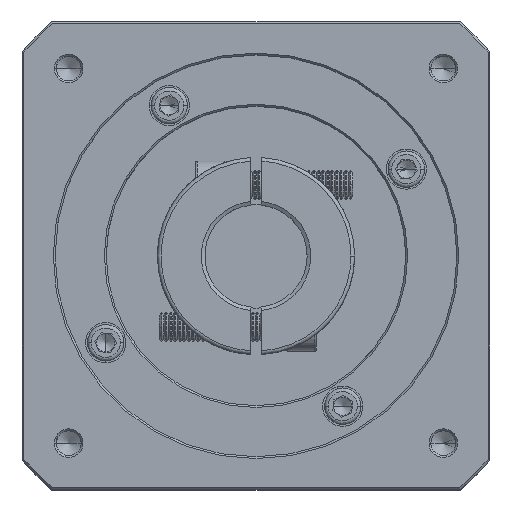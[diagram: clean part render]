
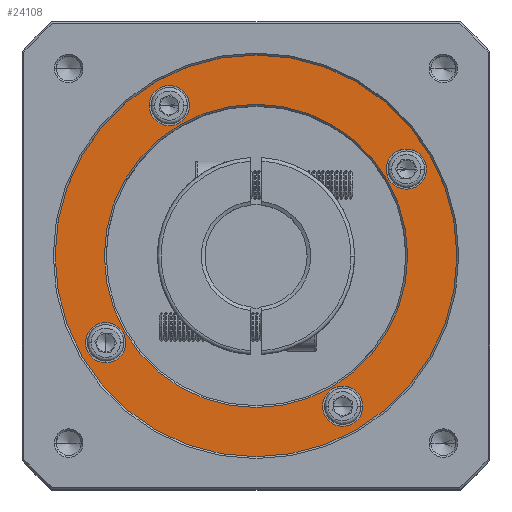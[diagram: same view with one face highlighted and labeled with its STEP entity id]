
A CAD part, top view. The second image highlights one B-rep face of the part: STEP entity #24108.
In plain terms, the highlighted planar face has unit normal (0, 0, 1).
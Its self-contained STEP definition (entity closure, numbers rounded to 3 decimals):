
#1014 = DIRECTION ( 'NONE',  ( 0., 0., -1. ) ) ;
#1461 = CIRCLE ( 'NONE', #45558, 55. ) ;
#2235 = ORIENTED_EDGE ( 'NONE', *, *, #91893, .T. ) ;
#2325 = CARTESIAN_POINT ( 'NONE',  ( 120.843, 116.637, -4.938 ) ) ;
#3922 = CARTESIAN_POINT ( 'NONE',  ( 84.093, 75.501, -4.938 ) ) ;
#4010 = FACE_BOUND ( 'NONE', #20566, .T. ) ;
#4549 = EDGE_CURVE ( 'NONE', #75756, #70799, #112379, .T. ) ;
#8068 = EDGE_CURVE ( 'NONE', #102644, #77143, #1461, .T. ) ;
#8077 = PLANE ( 'NONE',  #86240 ) ;
#8118 = CARTESIAN_POINT ( 'NONE',  ( 65.843, 116.637, -4.938 ) ) ;
#8927 = ORIENTED_EDGE ( 'NONE', *, *, #28743, .T. ) ;
#9043 = CIRCLE ( 'NONE', #24039, 55. ) ;
#9768 = EDGE_CURVE ( 'NONE', #70799, #75756, #59241, .T. ) ;
#9938 = DIRECTION ( 'NONE',  ( 1., 0., 0. ) ) ;
#10207 = CARTESIAN_POINT ( 'NONE',  ( 89.593, 75.501, -4.938 ) ) ;
#13308 = ORIENTED_EDGE ( 'NONE', *, *, #9768, .T. ) ;
#13631 = ORIENTED_EDGE ( 'NONE', *, *, #111243, .T. ) ;
#15833 = DIRECTION ( 'NONE',  ( 1., 0., 0. ) ) ;
#19259 = FACE_BOUND ( 'NONE', #46034, .T. ) ;
#20307 = EDGE_LOOP ( 'NONE', ( #13631, #100403 ) ) ;
#20566 = EDGE_LOOP ( 'NONE', ( #8927, #113206 ) ) ;
#22282 = DIRECTION ( 'NONE',  ( 1., 0., 0. ) ) ;
#22286 = EDGE_CURVE ( 'NONE', #99811, #34420, #45906, .T. ) ;
#23333 = CARTESIAN_POINT ( 'NONE',  ( 89.593, 75.501, -4.938 ) ) ;
#23355 = EDGE_CURVE ( 'NONE', #34420, #99811, #100887, .T. ) ;
#23631 = DIRECTION ( 'NONE',  ( 1., 0., 0. ) ) ;
#23877 = CARTESIAN_POINT ( 'NONE',  ( 24.707, 92.887, -4.938 ) ) ;
#23990 = DIRECTION ( 'NONE',  ( 0., 0., 1. ) ) ;
#24039 = AXIS2_PLACEMENT_3D ( 'NONE', #8118, #61988, #26323 ) ;
#24108 = ADVANCED_FACE ( 'NONE', ( #77547, #109381, #4010, #110736, #80294, #19259 ), #8077, .T. ) ;
#25144 = VERTEX_POINT ( 'NONE', #3922 ) ;
#25313 = CARTESIAN_POINT ( 'NONE',  ( 101.479, 140.387, -4.938 ) ) ;
#25912 = CARTESIAN_POINT ( 'NONE',  ( 65.843, 116.637, -4.938 ) ) ;
#26323 = DIRECTION ( 'NONE',  ( 1., 0., 0. ) ) ;
#26562 = CARTESIAN_POINT ( 'NONE',  ( 10.843, 116.637, -4.938 ) ) ;
#28743 = EDGE_CURVE ( 'NONE', #43766, #44200, #33373, .T. ) ;
#29462 = AXIS2_PLACEMENT_3D ( 'NONE', #23877, #32374, #85865 ) ;
#29899 = CARTESIAN_POINT ( 'NONE',  ( 30.207, 92.887, -4.938 ) ) ;
#31739 = CARTESIAN_POINT ( 'NONE',  ( 42.093, 157.773, -4.938 ) ) ;
#32374 = DIRECTION ( 'NONE',  ( 0., 0., -1. ) ) ;
#32778 = DIRECTION ( 'NONE',  ( 1., 0., 0. ) ) ;
#33373 = CIRCLE ( 'NONE', #58563, 5.5 ) ;
#34420 = VERTEX_POINT ( 'NONE', #59673 ) ;
#36386 = CARTESIAN_POINT ( 'NONE',  ( 36.593, 157.773, -4.938 ) ) ;
#36654 = ORIENTED_EDGE ( 'NONE', *, *, #23355, .T. ) ;
#36671 = CARTESIAN_POINT ( 'NONE',  ( 42.093, 157.773, -4.938 ) ) ;
#37388 = AXIS2_PLACEMENT_3D ( 'NONE', #31739, #68220, #23631 ) ;
#37463 = CARTESIAN_POINT ( 'NONE',  ( 24.707, 92.887, -4.938 ) ) ;
#38449 = AXIS2_PLACEMENT_3D ( 'NONE', #37463, #108316, #55286 ) ;
#40260 = VERTEX_POINT ( 'NONE', #36386 ) ;
#40277 = EDGE_CURVE ( 'NONE', #77143, #102644, #9043, .T. ) ;
#41082 = EDGE_LOOP ( 'NONE', ( #98264, #13308 ) ) ;
#41140 = DIRECTION ( 'NONE',  ( 0., 0., -1. ) ) ;
#43191 = DIRECTION ( 'NONE',  ( 0., 0., -1. ) ) ;
#43461 = CIRCLE ( 'NONE', #37388, 5.5 ) ;
#43766 = VERTEX_POINT ( 'NONE', #108621 ) ;
#44200 = VERTEX_POINT ( 'NONE', #25313 ) ;
#45121 = CIRCLE ( 'NONE', #59298, 5.5 ) ;
#45558 = AXIS2_PLACEMENT_3D ( 'NONE', #61195, #113478, #15833 ) ;
#45906 = CIRCLE ( 'NONE', #29462, 5.5 ) ;
#46034 = EDGE_LOOP ( 'NONE', ( #103782, #36654 ) ) ;
#49912 = CIRCLE ( 'NONE', #51116, 5.5 ) ;
#50672 = DIRECTION ( 'NONE',  ( 0., 0., -1. ) ) ;
#51047 = CARTESIAN_POINT ( 'NONE',  ( 24.343, 116.637, -4.938 ) ) ;
#51116 = AXIS2_PLACEMENT_3D ( 'NONE', #36671, #1014, #9938 ) ;
#52140 = AXIS2_PLACEMENT_3D ( 'NONE', #23333, #41140, #67145 ) ;
#55146 = DIRECTION ( 'NONE',  ( 1., 0., 0. ) ) ;
#55286 = DIRECTION ( 'NONE',  ( 1., 0., 0. ) ) ;
#57248 = CARTESIAN_POINT ( 'NONE',  ( 47.593, 157.773, -4.938 ) ) ;
#57274 = CARTESIAN_POINT ( 'NONE',  ( 95.093, 75.501, -4.938 ) ) ;
#57540 = CARTESIAN_POINT ( 'NONE',  ( 65.843, 116.637, -4.938 ) ) ;
#58563 = AXIS2_PLACEMENT_3D ( 'NONE', #99854, #81352, #90237 ) ;
#59241 = CIRCLE ( 'NONE', #78485, 41.5 ) ;
#59298 = AXIS2_PLACEMENT_3D ( 'NONE', #68854, #50672, #32778 ) ;
#59423 = VERTEX_POINT ( 'NONE', #57274 ) ;
#59673 = CARTESIAN_POINT ( 'NONE',  ( 19.207, 92.887, -4.938 ) ) ;
#61195 = CARTESIAN_POINT ( 'NONE',  ( 65.843, 116.637, -4.938 ) ) ;
#61988 = DIRECTION ( 'NONE',  ( 0., 0., 1. ) ) ;
#62145 = EDGE_CURVE ( 'NONE', #97346, #40260, #49912, .T. ) ;
#63778 = AXIS2_PLACEMENT_3D ( 'NONE', #57540, #75750, #22282 ) ;
#64640 = EDGE_CURVE ( 'NONE', #25144, #59423, #69998, .T. ) ;
#67145 = DIRECTION ( 'NONE',  ( 1., 0., 0. ) ) ;
#68220 = DIRECTION ( 'NONE',  ( 0., 0., -1. ) ) ;
#68854 = CARTESIAN_POINT ( 'NONE',  ( 106.979, 140.387, -4.938 ) ) ;
#69998 = CIRCLE ( 'NONE', #52140, 5.5 ) ;
#70799 = VERTEX_POINT ( 'NONE', #51047 ) ;
#75750 = DIRECTION ( 'NONE',  ( 0., 0., -1. ) ) ;
#75756 = VERTEX_POINT ( 'NONE', #86313 ) ;
#77143 = VERTEX_POINT ( 'NONE', #26562 ) ;
#77347 = EDGE_LOOP ( 'NONE', ( #106156, #2235 ) ) ;
#77547 = FACE_OUTER_BOUND ( 'NONE', #80563, .T. ) ;
#78485 = AXIS2_PLACEMENT_3D ( 'NONE', #95447, #43191, #104704 ) ;
#80294 = FACE_BOUND ( 'NONE', #77347, .T. ) ;
#80563 = EDGE_LOOP ( 'NONE', ( #92954, #83506 ) ) ;
#81352 = DIRECTION ( 'NONE',  ( 0., 0., -1. ) ) ;
#83506 = ORIENTED_EDGE ( 'NONE', *, *, #40277, .T. ) ;
#85683 = EDGE_CURVE ( 'NONE', #44200, #43766, #45121, .T. ) ;
#85865 = DIRECTION ( 'NONE',  ( 1., 0., 0. ) ) ;
#85980 = DIRECTION ( 'NONE',  ( 1., 0., 0. ) ) ;
#86240 = AXIS2_PLACEMENT_3D ( 'NONE', #25912, #23990, #85980 ) ;
#86313 = CARTESIAN_POINT ( 'NONE',  ( 107.343, 116.637, -4.938 ) ) ;
#87616 = AXIS2_PLACEMENT_3D ( 'NONE', #10207, #100383, #55146 ) ;
#89933 = CIRCLE ( 'NONE', #87616, 5.5 ) ;
#90237 = DIRECTION ( 'NONE',  ( 1., 0., 0. ) ) ;
#91893 = EDGE_CURVE ( 'NONE', #40260, #97346, #43461, .T. ) ;
#92954 = ORIENTED_EDGE ( 'NONE', *, *, #8068, .T. ) ;
#95447 = CARTESIAN_POINT ( 'NONE',  ( 65.843, 116.637, -4.938 ) ) ;
#97346 = VERTEX_POINT ( 'NONE', #57248 ) ;
#98264 = ORIENTED_EDGE ( 'NONE', *, *, #4549, .T. ) ;
#99811 = VERTEX_POINT ( 'NONE', #29899 ) ;
#99854 = CARTESIAN_POINT ( 'NONE',  ( 106.979, 140.387, -4.938 ) ) ;
#100383 = DIRECTION ( 'NONE',  ( 0., 0., -1. ) ) ;
#100403 = ORIENTED_EDGE ( 'NONE', *, *, #64640, .T. ) ;
#100887 = CIRCLE ( 'NONE', #38449, 5.5 ) ;
#102644 = VERTEX_POINT ( 'NONE', #2325 ) ;
#103782 = ORIENTED_EDGE ( 'NONE', *, *, #22286, .T. ) ;
#104704 = DIRECTION ( 'NONE',  ( 1., 0., 0. ) ) ;
#106156 = ORIENTED_EDGE ( 'NONE', *, *, #62145, .T. ) ;
#108316 = DIRECTION ( 'NONE',  ( 0., 0., -1. ) ) ;
#108621 = CARTESIAN_POINT ( 'NONE',  ( 112.479, 140.387, -4.938 ) ) ;
#109381 = FACE_BOUND ( 'NONE', #41082, .T. ) ;
#110736 = FACE_BOUND ( 'NONE', #20307, .T. ) ;
#111243 = EDGE_CURVE ( 'NONE', #59423, #25144, #89933, .T. ) ;
#112379 = CIRCLE ( 'NONE', #63778, 41.5 ) ;
#113206 = ORIENTED_EDGE ( 'NONE', *, *, #85683, .T. ) ;
#113478 = DIRECTION ( 'NONE',  ( 0., 0., 1. ) ) ;
